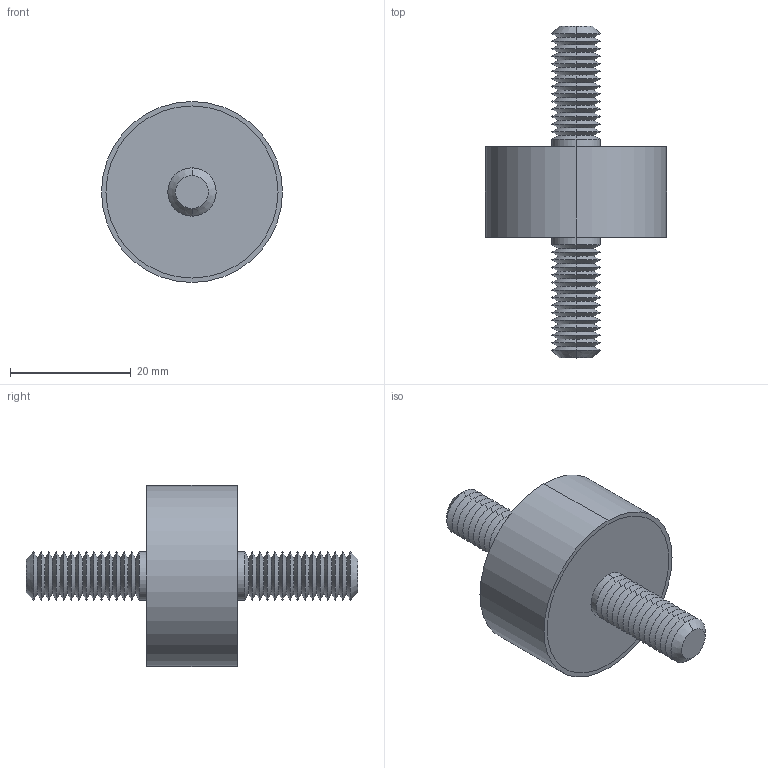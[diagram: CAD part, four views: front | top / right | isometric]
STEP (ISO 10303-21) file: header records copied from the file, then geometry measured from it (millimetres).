
FILE_DESCRIPTION (( 'STEP AP203' ), '1' );
FILE_NAME ('61040.W0303.step', '2019-09-24T22:33:21', ( '' ), ( '' ), 'SwSTEP 2.0', 'SolidWorks 2017', '' );
FILE_SCHEMA (( 'CONFIG_CONTROL_DESIGN' ));
Length unit declared in the file: millimetre
Products named in the file (4): Part2_61040.W0303; 61040.W0303; Part3_61040.W0303; Part1_61040.W0303
Assembly tree (3 placements, depth 2):
  61040.W0303
    Part1_61040.W0303
    Part2_61040.W0303
    Part3_61040.W0303
Bounding box: 30 x 55 x 30 mm (x, y, z)
Volume: 12145.1 mm3; surface area: 7164.3 mm2
Topology: 3 solids, 3 shells, 140 faces, 274 edges, 144 vertices
Faces by surface type: cone 116, cylinder 14, plane 10
Entity records: 3908 total; most frequent: DIRECTION 710, CARTESIAN_POINT 564, ORIENTED_EDGE 548, AXIS2_PLACEMENT_3D 290, EDGE_CURVE 274, EDGE_LOOP 144, CIRCLE 144, VERTEX_POINT 144
